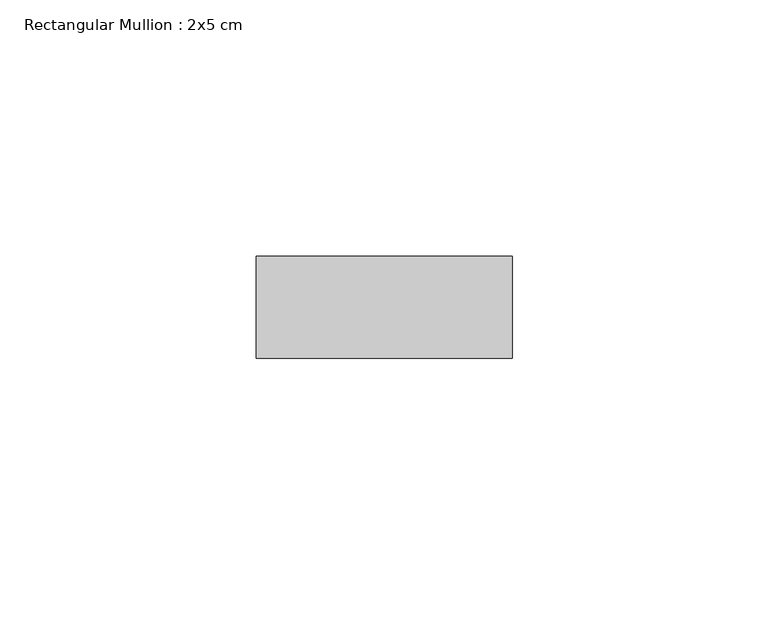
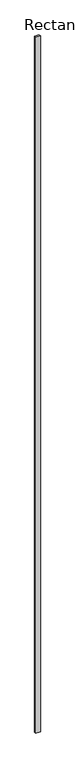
"""IFC4 building model written with IfcOpenShell, lengths in millimetres: member geometry, Rectangular Mullion : 2x5 cm."""

import ifcopenshell
import ifcopenshell.guid

model = None  # the IFC model being written
_history = None  # IfcOwnerHistory: only IFC2X3 demands one
_inside = {}  # id of a spatial element -> (the spatial element, [elements in it])
_under = {}  # id of a project, library or spatial element -> (it, [spatial elements below it])
_declared = {}  # id of a project -> (the project, [libraries it declares])
_typed = {}  # id of a type object -> (the type object, [elements of that type])
_made_of = {}  # id of a material, layer set ... -> (it, [elements and type objects made of it])


def new_model(schema):
    """Start an empty IFC model of exactly this schema.

    Asked for "IFC4X3", IfcOpenShell would pick the latest addendum, in which some entities
    have other attributes; the version numbers below select the first issue.
    IFC2X3 requires an IfcOwnerHistory on every rooted entity: one is made here for all.
    """
    global model, _history
    if schema == "IFC4X3":
        model = ifcopenshell.file(schema_version=(4, 3, 0, 0))
    else:
        model = ifcopenshell.file(schema=schema)
    _inside.clear()
    _under.clear()
    _declared.clear()
    _typed.clear()
    _made_of.clear()
    _history = None
    if model.schema == "IFC2X3":
        org = make("IfcOrganization", Name="unknown")
        user = make(
            "IfcPersonAndOrganization",
            ThePerson=make("IfcPerson", FamilyName="unknown"),
            TheOrganization=org,
        )
        app = make(
            "IfcApplication",
            ApplicationDeveloper=org,
            Version="unknown",
            ApplicationFullName="unknown",
            ApplicationIdentifier="unknown",
        )
        _history = make(
            "IfcOwnerHistory",
            OwningUser=user,
            OwningApplication=app,
            ChangeAction="ADDED",
            CreationDate=0,
        )
    return model


def make(cls, **values):
    """One entity of the class cls with the attributes given. An attribute that is None is left unset."""
    return model.create_entity(
        cls, **{name: value for name, value in values.items() if value is not None}
    )


def rooted(cls, **values):
    """An entity with a GlobalId (a new one), such as an element, a storey or a relation."""
    return make(cls, GlobalId=ifcopenshell.guid.new(), OwnerHistory=_history, **values)


def si_unit(unit_type, name, prefix=None):
    """IfcSIUnit, for example si_unit("LENGTHUNIT", "METRE", prefix="MILLI")."""
    return make("IfcSIUnit", UnitType=unit_type, Prefix=prefix, Name=name)


def assignment(units):
    """IfcUnitAssignment: the units of a project."""
    return None if units is None else make("IfcUnitAssignment", Units=units)


def point(xyz):
    """IfcCartesianPoint."""
    return None if xyz is None else make("IfcCartesianPoint", Coordinates=xyz)


def direction(xyz):
    """IfcDirection."""
    return None if xyz is None else make("IfcDirection", DirectionRatios=xyz)


def frame(location, z_axis=None, x_axis=None):
    """IfcAxis2Placement3D, a coordinate frame: its origin and axes. An axis left out is left unset."""
    return make(
        "IfcAxis2Placement3D",
        Location=point(location),
        Axis=direction(z_axis),
        RefDirection=direction(x_axis),
    )


def origin():
    """The frame at (0, 0, 0) with its axes left unset."""
    return frame((0.0, 0.0, 0.0))


def place(relative_to, where):
    """IfcLocalPlacement: puts the frame where relative to a parent placement (None: the world)."""
    return make(
        "IfcLocalPlacement", PlacementRelTo=relative_to, RelativePlacement=where
    )


def context(
    kind, dimensions, precision=None, world=None, true_north=None, identifier=None
):
    """IfcGeometricRepresentationContext, for example the 3D "Model" context."""
    return make(
        "IfcGeometricRepresentationContext",
        ContextIdentifier=identifier,
        ContextType=kind,
        CoordinateSpaceDimension=dimensions,
        Precision=precision,
        WorldCoordinateSystem=world,
        TrueNorth=true_north,
    )


def project(units=None, contexts=None):
    """IfcProject with its units and contexts."""
    return rooted(
        "IfcProject",
        Name="project",
        RepresentationContexts=contexts,
        UnitsInContext=assignment(units),
    )


def spatial(cls, under=None, at=None, **own):
    """A site, building, storey or space (cls), placed at a placement, below another one or the project."""
    s = rooted(cls, ObjectPlacement=at, **own)
    if under is not None:
        _under.setdefault(under.id(), (under, []))[1].append(s)
    return s


def polyline(points):
    """IfcPolyline through the points."""
    return make("IfcPolyline", Points=[point(p) for p in points])


def outline(outer, holes=None, kind="AREA"):
    """IfcArbitraryClosedProfileDef: a profile drawn as a closed curve; with holes, ...WithVoids."""
    if holes is None:
        return make("IfcArbitraryClosedProfileDef", ProfileType=kind, OuterCurve=outer)
    return make(
        "IfcArbitraryProfileDefWithVoids",
        ProfileType=kind,
        OuterCurve=outer,
        InnerCurves=holes,
    )


def extrude(swept, where, along, depth):
    """IfcExtrudedAreaSolid: the profile swept, set in the frame where, extruded along a direction by depth."""
    return make(
        "IfcExtrudedAreaSolid",
        SweptArea=swept,
        Position=where,
        ExtrudedDirection=direction(along),
        Depth=depth,
    )


def shape(context_of_items, identifier, shape_type, items):
    """IfcShapeRepresentation: the items that make up one representation, for example the "Body"."""
    return make(
        "IfcShapeRepresentation",
        ContextOfItems=context_of_items,
        RepresentationIdentifier=identifier,
        RepresentationType=shape_type,
        Items=items,
    )


def source(mapping_origin, context_of_items, identifier, shape_type, items):
    """IfcRepresentationMap: a shape defined once, which mapped items show again and again."""
    return make(
        "IfcRepresentationMap",
        MappingOrigin=mapping_origin,
        MappedRepresentation=shape(context_of_items, identifier, shape_type, items),
    )


def transform(
    local_origin,
    x_axis=None,
    y_axis=None,
    z_axis=None,
    scale=None,
    scale2=None,
    scale3=None,
    uniform=True,
):
    """IfcCartesianTransformationOperator3D, or its non-uniform kind. x_axis, y_axis, z_axis: its Axis1, 2, 3."""
    if uniform:
        return make(
            "IfcCartesianTransformationOperator3D",
            Axis1=direction(x_axis),
            Axis2=direction(y_axis),
            LocalOrigin=point(local_origin),
            Scale=scale,
            Axis3=direction(z_axis),
        )
    return make(
        "IfcCartesianTransformationOperator3DnonUniform",
        Axis1=direction(x_axis),
        Axis2=direction(y_axis),
        LocalOrigin=point(local_origin),
        Scale=scale,
        Axis3=direction(z_axis),
        Scale2=scale2,
        Scale3=scale3,
    )


def mapped(mapping_source, mapping_target):
    """IfcMappedItem: shows the shape of a source again, moved by a transform."""
    return make(
        "IfcMappedItem", MappingSource=mapping_source, MappingTarget=mapping_target
    )


def made_of(thing, what):
    """Note that an element or type object is made of a material, layer set ...; save() writes the relation."""
    if what is not None:
        _made_of.setdefault(what.id(), (what, []))[1].append(thing)
    return thing


def element(
    cls,
    number,
    at=None,
    inside=None,
    cuts=None,
    type_object=None,
    material=None,
    context=None,
    identifier="Body",
    shape_type=None,
    held_by="IfcProductDefinitionShape",
    body=None,
    shapes=None,
    **own,
):
    """One element of the class cls, such as IfcWall. Its Tag is "e" and its number.

    at: its placement. inside: the storey or other place that contains it. cuts: it is an
    opening in that element (IfcRelVoidsElement). A single representation is given by context,
    identifier, shape_type and body (its items); several are given by shapes. held_by: the class
    of the entity that holds the representations. save() writes the other relations.
    """
    e = rooted(cls, Tag="e%d" % number, ObjectPlacement=at, **own)
    if body is not None:
        shapes = [shape(context, identifier, shape_type, body)]
    if shapes is not None:
        e.Representation = make(held_by, Representations=shapes)
    if inside is not None:
        _inside.setdefault(inside.id(), (inside, []))[1].append(e)
    if cuts is not None:
        rooted(
            "IfcRelVoidsElement", RelatingBuildingElement=cuts, RelatedOpeningElement=e
        )
    if type_object is not None:
        _typed.setdefault(type_object.id(), (type_object, []))[1].append(e)
    return made_of(e, material)


def aggregate(whole, parts):
    """IfcRelAggregates: a whole, such as a stair, and the parts it consists of."""
    return rooted("IfcRelAggregates", RelatingObject=whole, RelatedObjects=parts)


def save(model, path):
    """Write the relations noted so far, then the file.

    IfcRelAggregates (storeys below a building ...), IfcRelContainedInSpatialStructure (elements
    in a storey), IfcRelDefinesByType, IfcRelAssociatesMaterial and IfcRelDeclares: one each for
    every whole, place, type object, material and project.
    """
    for whole, parts in _under.values():
        aggregate(whole, parts)
    for where, things in _inside.values():
        rooted(
            "IfcRelContainedInSpatialStructure",
            RelatedElements=things,
            RelatingStructure=where,
        )
    for kind, things in _typed.values():
        rooted("IfcRelDefinesByType", RelatedObjects=things, RelatingType=kind)
    for what, things in _made_of.values():
        rooted("IfcRelAssociatesMaterial", RelatedObjects=things, RelatingMaterial=what)
    for by, libraries in _declared.values():
        rooted("IfcRelDeclares", RelatingContext=by, RelatedDefinitions=libraries)
    model.write(path)


def rectangular_mullion_2x5_cm_948217a6(model_context):
    return source(origin(), model_context, "Body", "SweptSolid", [
        extrude(outline(polyline([(50.0, 20.0), (50.0, 0.0), (0.0, 0.0), (0.0, 20.0), (50.0, 20.0)])), frame((0.0, 0.0, -8044.153025), z_axis=(0.0, 0.0, 1.0), x_axis=(1.0, 0.0, 0.0)), (0.0, 0.0, 1.0), 8044.153025),
    ])


if __name__ == "__main__":
    model = new_model("IFC4")
    model_context = context("Model", 3, world=origin())
    ifc_project = project(units=[si_unit("LENGTHUNIT", "METRE", prefix="MILLI")], contexts=[model_context])
    site = spatial("IfcSite", under=ifc_project)
    building = spatial("IfcBuilding", under=site)
    placement = place(None, origin())
    rectangular_mullion_2x5_cm_shape = rectangular_mullion_2x5_cm_948217a6(model_context)
    element("IfcMember", 1, ObjectType="Rectangular Mullion : 2x5 cm", at=placement, inside=building, context=model_context, shape_type="MappedRepresentation", body=[
        mapped(rectangular_mullion_2x5_cm_shape, transform((0.0, 0.0, 0.0), x_axis=(1.0, 0.0, 0.0), y_axis=(0.0, 1.0, 0.0), z_axis=(0.0, 0.0, 1.0))),
    ])
    save(model, "model.ifc")
